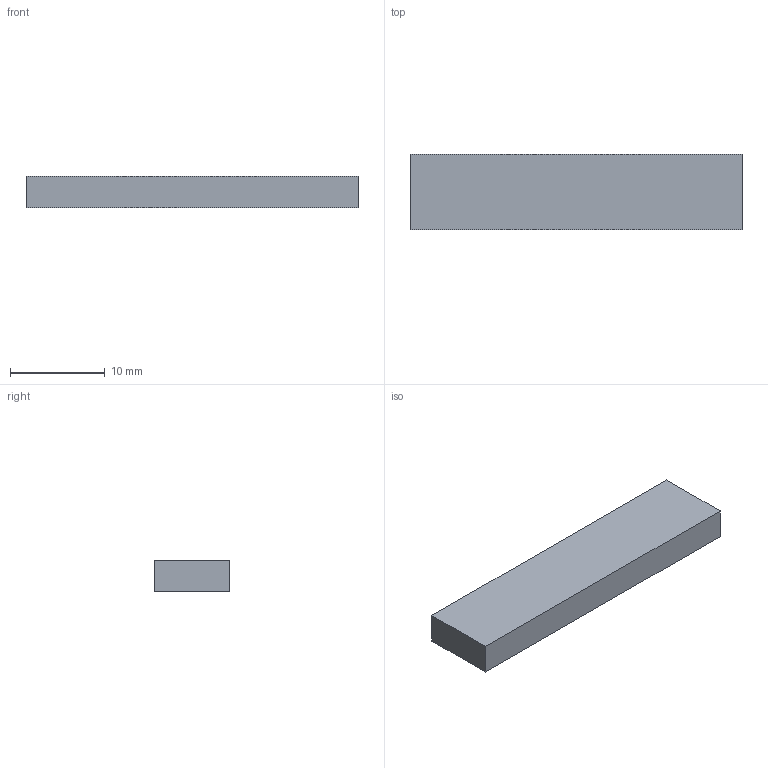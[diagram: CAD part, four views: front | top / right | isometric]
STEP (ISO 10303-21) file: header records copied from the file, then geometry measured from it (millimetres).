
FILE_DESCRIPTION(('Open CASCADE Model'),'2;1');
FILE_NAME('Open CASCADE Shape Model','2024-11-28T09:59:14',('Author'),( 'Open CASCADE'),'Open CASCADE STEP processor 6.5','Open CASCADE 6.5' ,'Unknown');
FILE_SCHEMA(('AUTOMOTIVE_DESIGN_CC2 { 1 2 10303 214 -1 1 5 4 }'));
Length unit declared in the file: millimetre
Products named in the file (2): PCB; Board
Assembly tree (1 placements, depth 2):
  PCB
    Board
Bounding box: 35 x 8 x 3.29 mm (x, y, z)
Volume: 921.6 mm3; surface area: 843.1 mm2
Topology: 1 solids, 1 shells, 6 faces, 12 edges, 8 vertices
Faces by surface type: plane 6
Entity records: 351 total; most frequent: CARTESIAN_POINT 52, DIRECTION 52, LINE 36, VECTOR 36, ORIENTED_EDGE 24, PCURVE 24, DEFINITIONAL_REPRESENTATION 24, EDGE_CURVE 12
